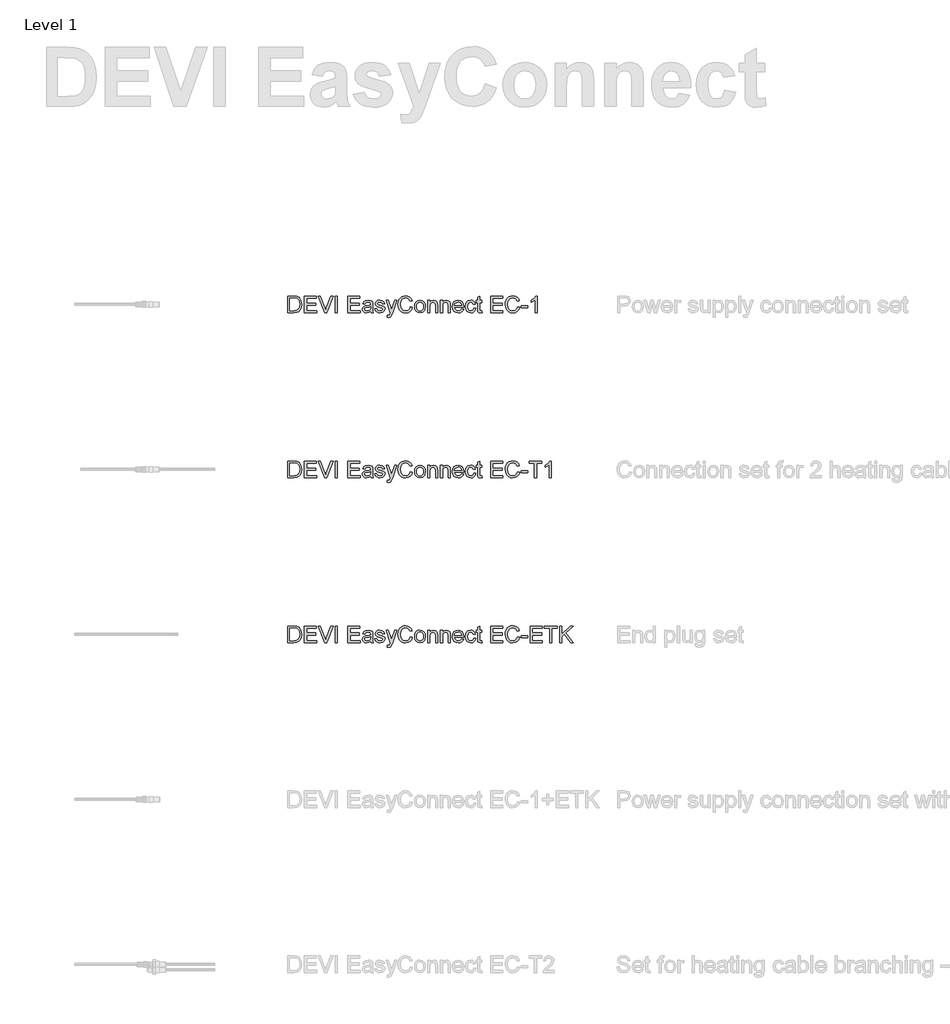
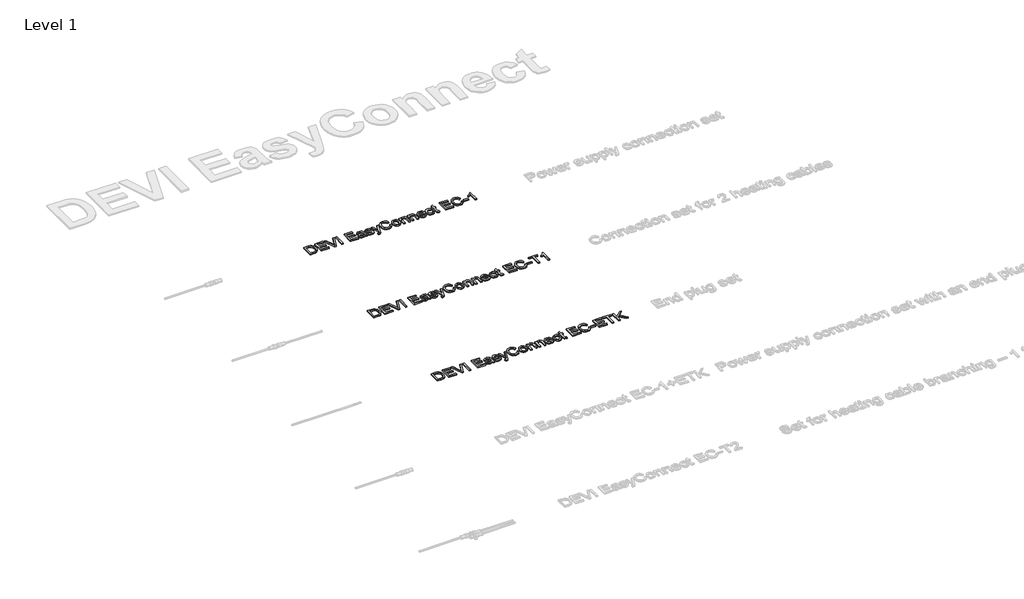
# One storey, part 8 of 11: 3 proxies.
"""IFC4 building model written with IfcOpenShell, lengths in millimetres."""

import ifcopenshell
import ifcopenshell.guid

model = None  # the IFC model being written
_history = None  # IfcOwnerHistory: only IFC2X3 demands one
_inside = {}  # id of a spatial element -> (the spatial element, [elements in it])
_under = {}  # id of a project, library or spatial element -> (it, [spatial elements below it])
_declared = {}  # id of a project -> (the project, [libraries it declares])
_typed = {}  # id of a type object -> (the type object, [elements of that type])
_made_of = {}  # id of a material, layer set ... -> (it, [elements and type objects made of it])


def new_model(schema):
    """Start an empty IFC model of exactly this schema.

    Asked for "IFC4X3", IfcOpenShell would pick the latest addendum, in which some entities
    have other attributes; the version numbers below select the first issue.
    IFC2X3 requires an IfcOwnerHistory on every rooted entity: one is made here for all.
    """
    global model, _history
    if schema == "IFC4X3":
        model = ifcopenshell.file(schema_version=(4, 3, 0, 0))
    else:
        model = ifcopenshell.file(schema=schema)
    _inside.clear()
    _under.clear()
    _declared.clear()
    _typed.clear()
    _made_of.clear()
    _history = None
    if model.schema == "IFC2X3":
        org = make("IfcOrganization", Name="unknown")
        user = make(
            "IfcPersonAndOrganization",
            ThePerson=make("IfcPerson", FamilyName="unknown"),
            TheOrganization=org,
        )
        app = make(
            "IfcApplication",
            ApplicationDeveloper=org,
            Version="unknown",
            ApplicationFullName="unknown",
            ApplicationIdentifier="unknown",
        )
        _history = make(
            "IfcOwnerHistory",
            OwningUser=user,
            OwningApplication=app,
            ChangeAction="ADDED",
            CreationDate=0,
        )
    return model


def make(cls, **values):
    """One entity of the class cls with the attributes given. An attribute that is None is left unset."""
    return model.create_entity(
        cls, **{name: value for name, value in values.items() if value is not None}
    )


def rooted(cls, **values):
    """An entity with a GlobalId (a new one), such as an element, a storey or a relation."""
    return make(cls, GlobalId=ifcopenshell.guid.new(), OwnerHistory=_history, **values)


def si_unit(unit_type, name, prefix=None):
    """IfcSIUnit, for example si_unit("LENGTHUNIT", "METRE", prefix="MILLI")."""
    return make("IfcSIUnit", UnitType=unit_type, Prefix=prefix, Name=name)


def assignment(units):
    """IfcUnitAssignment: the units of a project."""
    return None if units is None else make("IfcUnitAssignment", Units=units)


def point(xyz):
    """IfcCartesianPoint."""
    return None if xyz is None else make("IfcCartesianPoint", Coordinates=xyz)


def direction(xyz):
    """IfcDirection."""
    return None if xyz is None else make("IfcDirection", DirectionRatios=xyz)


def frame(location, z_axis=None, x_axis=None):
    """IfcAxis2Placement3D, a coordinate frame: its origin and axes. An axis left out is left unset."""
    return make(
        "IfcAxis2Placement3D",
        Location=point(location),
        Axis=direction(z_axis),
        RefDirection=direction(x_axis),
    )


def origin():
    """The frame at (0, 0, 0) with its axes left unset."""
    return frame((0.0, 0.0, 0.0))


def origin_with_axes():
    """The frame at (0, 0, 0) with the z axis (0, 0, 1) and the x axis (1, 0, 0) written out."""
    return frame((0.0, 0.0, 0.0), z_axis=(0.0, 0.0, 1.0), x_axis=(1.0, 0.0, 0.0))


def place(relative_to, where):
    """IfcLocalPlacement: puts the frame where relative to a parent placement (None: the world)."""
    return make(
        "IfcLocalPlacement", PlacementRelTo=relative_to, RelativePlacement=where
    )


def context(
    kind, dimensions, precision=None, world=None, true_north=None, identifier=None
):
    """IfcGeometricRepresentationContext, for example the 3D "Model" context."""
    return make(
        "IfcGeometricRepresentationContext",
        ContextIdentifier=identifier,
        ContextType=kind,
        CoordinateSpaceDimension=dimensions,
        Precision=precision,
        WorldCoordinateSystem=world,
        TrueNorth=true_north,
    )


def project(units=None, contexts=None):
    """IfcProject with its units and contexts."""
    return rooted(
        "IfcProject",
        Name="project",
        RepresentationContexts=contexts,
        UnitsInContext=assignment(units),
    )


def spatial(cls, under=None, at=None, **own):
    """A site, building, storey or space (cls), placed at a placement, below another one or the project."""
    s = rooted(cls, ObjectPlacement=at, **own)
    if under is not None:
        _under.setdefault(under.id(), (under, []))[1].append(s)
    return s


def polyline(points):
    """IfcPolyline through the points."""
    return make("IfcPolyline", Points=[point(p) for p in points])


def outline(outer, holes=None, kind="AREA"):
    """IfcArbitraryClosedProfileDef: a profile drawn as a closed curve; with holes, ...WithVoids."""
    if holes is None:
        return make("IfcArbitraryClosedProfileDef", ProfileType=kind, OuterCurve=outer)
    return make(
        "IfcArbitraryProfileDefWithVoids",
        ProfileType=kind,
        OuterCurve=outer,
        InnerCurves=holes,
    )


def extrude(swept, where, along, depth):
    """IfcExtrudedAreaSolid: the profile swept, set in the frame where, extruded along a direction by depth."""
    return make(
        "IfcExtrudedAreaSolid",
        SweptArea=swept,
        Position=where,
        ExtrudedDirection=direction(along),
        Depth=depth,
    )


def shape(context_of_items, identifier, shape_type, items):
    """IfcShapeRepresentation: the items that make up one representation, for example the "Body"."""
    return make(
        "IfcShapeRepresentation",
        ContextOfItems=context_of_items,
        RepresentationIdentifier=identifier,
        RepresentationType=shape_type,
        Items=items,
    )


def made_of(thing, what):
    """Note that an element or type object is made of a material, layer set ...; save() writes the relation."""
    if what is not None:
        _made_of.setdefault(what.id(), (what, []))[1].append(thing)
    return thing


def element(
    cls,
    number,
    at=None,
    inside=None,
    cuts=None,
    type_object=None,
    material=None,
    context=None,
    identifier="Body",
    shape_type=None,
    held_by="IfcProductDefinitionShape",
    body=None,
    shapes=None,
    **own,
):
    """One element of the class cls, such as IfcWall. Its Tag is "e" and its number.

    at: its placement. inside: the storey or other place that contains it. cuts: it is an
    opening in that element (IfcRelVoidsElement). A single representation is given by context,
    identifier, shape_type and body (its items); several are given by shapes. held_by: the class
    of the entity that holds the representations. save() writes the other relations.
    """
    e = rooted(cls, Tag="e%d" % number, ObjectPlacement=at, **own)
    if body is not None:
        shapes = [shape(context, identifier, shape_type, body)]
    if shapes is not None:
        e.Representation = make(held_by, Representations=shapes)
    if inside is not None:
        _inside.setdefault(inside.id(), (inside, []))[1].append(e)
    if cuts is not None:
        rooted(
            "IfcRelVoidsElement", RelatingBuildingElement=cuts, RelatedOpeningElement=e
        )
    if type_object is not None:
        _typed.setdefault(type_object.id(), (type_object, []))[1].append(e)
    return made_of(e, material)


def aggregate(whole, parts):
    """IfcRelAggregates: a whole, such as a stair, and the parts it consists of."""
    return rooted("IfcRelAggregates", RelatingObject=whole, RelatedObjects=parts)


def save(model, path):
    """Write the relations noted so far, then the file.

    IfcRelAggregates (storeys below a building ...), IfcRelContainedInSpatialStructure (elements
    in a storey), IfcRelDefinesByType, IfcRelAssociatesMaterial and IfcRelDeclares: one each for
    every whole, place, type object, material and project.
    """
    for whole, parts in _under.values():
        aggregate(whole, parts)
    for where, things in _inside.values():
        rooted(
            "IfcRelContainedInSpatialStructure",
            RelatedElements=things,
            RelatingStructure=where,
        )
    for kind, things in _typed.values():
        rooted("IfcRelDefinesByType", RelatedObjects=things, RelatingType=kind)
    for what, things in _made_of.values():
        rooted("IfcRelAssociatesMaterial", RelatedObjects=things, RelatingMaterial=what)
    for by, libraries in _declared.values():
        rooted("IfcRelDeclares", RelatingContext=by, RelatedDefinitions=libraries)
    model.write(path)


model = new_model("IFC4")

# Units and contexts
model_context = context("Model", 3, world=origin())
ifc_project = project(units=[si_unit("LENGTHUNIT", "METRE", prefix="MILLI")], contexts=[model_context])

# Site, building, storey
site = spatial("IfcSite", under=ifc_project)
building = spatial("IfcBuilding", under=site)
storey = spatial("IfcBuildingStorey", under=building, Name="Level 1", Elevation=0.0)

# Proxies
placement = place(None, origin())
element("IfcBuildingElementProxy", 1, Name="100mm Arial", ObjectType="100mm Arial", at=placement, inside=storey, context=model_context, shape_type="SweptSolid", body=[
    extrude(outline(polyline([(2544.9544754, 6516.7341496), (2544.9544754, 6617.1904598), (2579.6089593, 6617.1904598), (2597.5370752, 6615.7434572), (2612.3014059, 6608.5574956), (2624.1962571, 6591.3896692), (2628.1448572, 6567.5018649), (2625.4715814, 6547.231567), (2618.6044508, 6532.6021263), (2609.4319264, 6523.4909156), (2597.4267106, 6518.4509323), (2581.276691, 6516.7341496), (2544.9544754, 6516.7341496)]), holes=[polyline([(2557.5115141, 6529.2911884), (2579.7315866, 6529.2911884), (2595.893869, 6531.1060729), (2605.2135462, 6536.2318954), (2612.8532289, 6548.703095), (2615.5878184, 6567.6980687), (2614.2481148, 6581.3832789), (2610.229004, 6591.487771), (2597.1937187, 6602.6223328), (2579.3882301, 6604.633421), (2557.5115141, 6604.633421), (2557.5115141, 6529.2911884)])]), origin_with_axes(), (0.0, 0.0, 1.0), 10.0),
    extrude(outline(polyline([(2645.4107855, 6516.7341496), (2645.4107855, 6617.1904598), (2717.6137584, 6617.1904598), (2717.6137584, 6604.633421), (2657.9678243, 6604.633421), (2657.9678243, 6574.8104539), (2714.4744987, 6574.8104539), (2714.4744987, 6562.2534151), (2657.9678243, 6562.2534151), (2657.9678243, 6529.2911884), (2719.1833883, 6529.2911884), (2719.1833883, 6516.7341496), (2645.4107855, 6516.7341496)])), origin_with_axes(), (0.0, 0.0, 1.0), 10.0),
    extrude(outline(polyline([(2767.6947607, 6516.7341496), (2727.7182506, 6617.1904598), (2741.1582061, 6617.1904598), (2767.9154899, 6544.8158086), (2773.335618, 6528.5063735), (2778.6821696, 6544.8158086), (2805.5130298, 6617.1904598), (2818.9529854, 6617.1904598), (2780.6687324, 6516.7341496), (2767.6947607, 6516.7341496)])), origin_with_axes(), (0.0, 0.0, 1.0), 10.0),
    extrude(outline(polyline([(2832.1967372, 6516.7341496), (2832.1967372, 6617.1904598), (2844.753776, 6617.1904598), (2844.753776, 6516.7341496), (2832.1967372, 6516.7341496)])), origin_with_axes(), (0.0, 0.0, 1.0), 10.0),
    extrude(outline(polyline([(2909.1085996, 6516.7341496), (2909.1085996, 6617.1904598), (2981.3115726, 6617.1904598), (2981.3115726, 6604.633421), (2921.6656384, 6604.633421), (2921.6656384, 6574.8104539), (2978.1723129, 6574.8104539), (2978.1723129, 6562.2534151), (2921.6656384, 6562.2534151), (2921.6656384, 6529.2911884), (2982.8812024, 6529.2911884), (2982.8812024, 6516.7341496), (2909.1085996, 6516.7341496)])), origin_with_axes(), (0.0, 0.0, 1.0), 10.0),
    extrude(outline(polyline([(3047.2360261, 6526.1519287), (3035.0591321, 6517.6415919), (3021.6069138, 6515.1645198), (3011.1130799, 6516.6544418), (3003.3722295, 6521.1242081), (2998.5989607, 6527.9116309), (2997.007871, 6536.3545227), (2999.4113667, 6546.2873366), (3005.7266743, 6553.4978237), (3014.519054, 6557.618102), (3025.3838356, 6559.5065629), (3047.1624497, 6563.823045), (3047.2360261, 6566.6189482), (3043.7779353, 6575.8895744), (3029.8965214, 6579.5193435), (3017.1923298, 6577.103585), (3011.1345396, 6568.5319345), (2998.5775009, 6570.1015644), (3004.0098917, 6582.3642975), (3014.9482497, 6589.5502592), (3031.5152022, 6592.0763822), (3046.733254, 6589.8445648), (3055.32943, 6584.2404957), (3059.1799282, 6575.7178962), (3059.7930649, 6564.7304872), (3059.7930649, 6549.1077652), (3060.430727, 6527.2923629), (3062.9323246, 6516.7341496), (3050.3752858, 6516.7341496), (3047.2360261, 6526.1519287)]), holes=[polyline([(3047.2360261, 6551.2660062), (3026.9779909, 6547.415508), (3016.174523, 6545.3798943), (3011.2816924, 6542.0689563), (3009.5649098, 6537.2374395), (3013.3050434, 6530.4438853), (3024.2801896, 6527.7215585), (3036.9843812, 6530.7259282), (3045.1758869, 6537.9977289), (3047.1624497, 6547.7098136), (3047.2360261, 6551.2660062)])]), origin_with_axes(), (0.0, 0.0, 1.0), 10.0),
    extrude(outline(polyline([(3072.3501036, 6538.7089675), (3084.9071424, 6540.2785973), (3090.7196779, 6530.9589201), (3104.0370062, 6527.7215585), (3116.8392996, 6530.68914), (3121.0086289, 6537.6543724), (3116.8147741, 6543.2952297), (3103.8898534, 6546.8759477), (3084.9807188, 6553.0195771), (3076.7278994, 6560.193276), (3073.9197335, 6570.3222936), (3076.1760764, 6579.678759), (3082.3319684, 6586.8279324), (3090.3150077, 6590.5435406), (3101.1184757, 6592.0763822), (3116.3978412, 6589.6115729), (3126.1099259, 6582.940646), (3130.4264079, 6571.6711942), (3117.8693692, 6570.1015644), (3113.1482169, 6577.0300086), (3102.0994943, 6579.5193435), (3090.0820158, 6577.1403732), (3086.4767723, 6571.5976178), (3087.9728257, 6567.9433233), (3092.6571898, 6565.1719456), (3103.4729204, 6562.4986698), (3121.9038084, 6556.5880324), (3130.4631961, 6549.8925801), (3133.5656676, 6538.9787476), (3129.9236359, 6526.9612691), (3119.4144736, 6518.2424658), (3103.8653279, 6515.1645198), (3091.2040559, 6516.6483105), (3081.9640864, 6521.0996826), (3075.7959317, 6528.4695853), (3072.3501036, 6538.7089675)])), origin_with_axes(), (0.0, 0.0, 1.0), 10.0),
    extrude(outline(polyline([(3147.6923363, 6488.4808124), (3146.1227064, 6500.5718673), (3152.4993277, 6499.4682213), (3158.459016, 6500.8539102), (3162.1133105, 6504.7166711), (3165.5468758, 6513.9627719), (3166.5278944, 6517.0039297), (3139.844187, 6590.5067524), (3153.0879388, 6590.5067524), (3167.2391329, 6549.5492236), (3172.1687517, 6533.1662121), (3177.0983704, 6547.6362372), (3191.6419719, 6590.5067524), (3204.7876219, 6590.5067524), (3179.1094586, 6514.968316), (3172.4385318, 6498.5853045), (3165.1544683, 6489.7316112), (3155.3688072, 6486.9111825), (3147.6923363, 6488.4808124)])), origin_with_axes(), (0.0, 0.0, 1.0), 10.0),
    extrude(outline(polyline([(3287.3893926, 6552.4432286), (3299.9464313, 6549.2058671), (3294.1522899, 6534.5733607), (3285.0594733, 6523.883323), (3273.1155711, 6517.3442206), (3258.7681733, 6515.1645198), (3244.203112, 6516.8138574), (3232.6362889, 6521.7618702), (3223.7703329, 6529.83688), (3217.3078725, 6540.8672085), (3212.0471599, 6567.7225941), (3213.5340163, 6582.3704289), (3217.9945855, 6595.0194382), (3225.1958756, 6605.2680174), (3234.9048946, 6612.7145622), (3246.419601, 6617.2487077), (3259.0379535, 6618.7600896), (3272.8059371, 6616.8041837), (3284.1888192, 6610.9364658), (3292.8309804, 6601.5186868), (3298.3768015, 6588.9125971), (3285.8197627, 6585.9204902), (3275.5190668, 6601.3592712), (3258.5474441, 6606.2030508), (3238.9025456, 6600.8319737), (3227.8047721, 6586.4109995), (3224.6041987, 6567.7471196), (3228.3933833, 6546.1156583), (3240.1901326, 6532.295558), (3257.5173745, 6527.7215585), (3267.9989457, 6529.2789256), (3276.7330774, 6533.951027), (3283.3273622, 6541.6888116), (3287.3893926, 6552.4432286)])), origin_with_axes(), (0.0, 0.0, 1.0), 10.0),
    extrude(outline(polyline([(3312.5034701, 6553.620451), (3315.2196655, 6571.4075455), (3323.3682517, 6583.9094019), (3333.4359556, 6590.0346371), (3345.4902223, 6592.0763822), (3358.6818575, 6589.5901131), (3369.218611, 6582.1313056), (3376.1255955, 6570.2885711), (3378.4279236, 6554.6505206), (3374.3566962, 6532.3078207), (3362.4986332, 6519.6649428), (3345.4902223, 6515.1645198), (3332.1391716, 6517.6415919), (3321.6146808, 6525.0728082), (3314.7812728, 6537.1638631), (3312.5034701, 6553.620451)]), holes=[polyline([(3325.0605089, 6553.6449765), (3326.5136427, 6542.2804885), (3330.8730444, 6534.1840189), (3337.4336066, 6529.3371736), (3345.4902223, 6527.7215585), (3353.5100498, 6529.3463707), (3360.0583493, 6534.2208071), (3364.417751, 6542.4245756), (3365.8708849, 6554.0373839), (3364.4085539, 6565.0707781), (3360.0215611, 6573.0568831), (3353.4640646, 6577.9037284), (3345.4902223, 6579.5193435), (3337.4336066, 6577.9098597), (3330.8730444, 6573.0814085), (3326.5136427, 6565.0033331), (3325.0605089, 6553.6449765)])]), origin_with_axes(), (0.0, 0.0, 1.0), 10.0),
    extrude(outline(polyline([(3392.5545922, 6516.7341496), (3392.5545922, 6590.5067524), (3405.111631, 6590.5067524), (3405.111631, 6580.2060565), (3414.7133511, 6589.1088008), (3427.8222128, 6592.0763822), (3439.6802758, 6589.6851493), (3447.7736797, 6583.4066299), (3451.5383388, 6574.1727918), (3452.2005264, 6562.0326859), (3452.2005264, 6516.7341496), (3439.6434876, 6516.7341496), (3439.6434876, 6560.3404288), (3438.1964851, 6571.450465), (3433.0829254, 6577.3243142), (3424.462224, 6579.5193435), (3410.8383274, 6574.5897247), (3406.5433051, 6567.4466826), (3405.111631, 6555.8767939), (3405.111631, 6516.7341496), (3392.5545922, 6516.7341496)])), origin_with_axes(), (0.0, 0.0, 1.0), 10.0),
    extrude(outline(polyline([(3469.4664547, 6516.7341496), (3469.4664547, 6590.5067524), (3482.0234935, 6590.5067524), (3482.0234935, 6580.2060565), (3491.6252135, 6589.1088008), (3504.7340753, 6592.0763822), (3516.5921383, 6589.6851493), (3524.6855422, 6583.4066299), (3528.4502013, 6574.1727918), (3529.1123889, 6562.0326859), (3529.1123889, 6516.7341496), (3516.5553501, 6516.7341496), (3516.5553501, 6560.3404288), (3515.1083476, 6571.450465), (3509.9947878, 6577.3243142), (3501.3740864, 6579.5193435), (3487.7501899, 6574.5897247), (3483.4551676, 6567.4466826), (3482.0234935, 6555.8767939), (3482.0234935, 6516.7341496), (3469.4664547, 6516.7341496)])), origin_with_axes(), (0.0, 0.0, 1.0), 10.0),
    extrude(outline(polyline([(3598.0289493, 6538.7089675), (3610.3407334, 6537.1393376), (3605.9046897, 6527.86258), (3598.8260269, 6520.9280044), (3589.2641607, 6516.6053909), (3577.3785066, 6515.1645198), (3562.6448327, 6517.6507889), (3551.3079359, 6525.1095964), (3544.0790547, 6537.0565642), (3541.6694276, 6553.0073143), (3544.1035802, 6569.4945591), (3551.4060378, 6581.8247373), (3562.5896504, 6589.513471), (3576.6672681, 6592.0763822), (3590.3064931, 6589.5196024), (3601.2049972, 6581.8492628), (3608.3511049, 6569.54361), (3610.7331408, 6553.0808907), (3610.6595645, 6549.6963764), (3554.2264664, 6549.6963764), (3556.4000358, 6540.2969914), (3561.4492162, 6533.3869413), (3568.7363454, 6529.1379042), (3577.6237613, 6527.7215585), (3589.9355454, 6530.3457834), (3598.0289493, 6538.7089675)]), holes=[polyline([(3554.2264664, 6562.2534151), (3598.1761021, 6562.2534151), (3593.1483815, 6573.6332315), (3585.8275298, 6578.0478155), (3576.6182172, 6579.5193435), (3561.1549106, 6574.8227166), (3556.2896712, 6569.3320779), (3554.2264664, 6562.2534151)])]), origin_with_axes(), (0.0, 0.0, 1.0), 10.0),
    extrude(outline(polyline([(3670.379075, 6543.417857), (3682.9361138, 6541.8482271), (3679.4351034, 6530.6799429), (3672.8561471, 6522.2401168), (3663.8185128, 6516.933419), (3652.9414684, 6515.1645198), (3639.5842863, 6517.6323948), (3629.1395033, 6525.03602), (3622.3980658, 6537.0504328), (3620.1509199, 6553.3506709), (3623.9891554, 6574.20958), (3635.6878029, 6587.6127473), (3652.7697902, 6592.0763822), (3663.38012, 6590.5435406), (3671.8628657, 6585.9450156), (3677.9482471, 6578.5260621), (3681.3664839, 6568.5319345), (3668.8094452, 6566.9623047), (3662.9846469, 6576.367821), (3652.867892, 6579.5193435), (3644.7530284, 6577.9681077), (3638.3120278, 6573.3144005), (3634.108976, 6565.3068357), (3632.7079587, 6553.6940274), (3634.0783191, 6541.9248692), (3638.1894004, 6533.8897133), (3644.5139051, 6529.2635972), (3652.5245355, 6527.7215585), (3664.358073, 6531.5720567), (3670.379075, 6543.417857)])), origin_with_axes(), (0.0, 0.0, 1.0), 10.0),
    extrude(outline(polyline([(3720.6072301, 6527.2065237), (3722.1768599, 6516.3662676), (3712.7836063, 6515.1645198), (3702.2621812, 6517.2491844), (3697.0137315, 6522.7183634), (3695.4931525, 6536.9676593), (3695.4931525, 6577.9497136), (3686.0753735, 6577.9497136), (3686.0753735, 6590.5067524), (3695.4931525, 6590.5067524), (3695.4931525, 6608.4348683), (3708.0501913, 6615.8170336), (3708.0501913, 6590.5067524), (3720.6072301, 6590.5067524), (3720.6072301, 6577.9497136), (3708.0501913, 6577.9497136), (3708.0501913, 6537.3355413), (3708.7123789, 6530.8608182), (3710.8583572, 6528.5676871), (3715.1380511, 6527.7215585), (3720.6072301, 6527.2065237)])), origin_with_axes(), (0.0, 0.0, 1.0), 10.0),
    extrude(outline(polyline([(3773.9746448, 6516.7341496), (3773.9746448, 6617.1904598), (3846.1776178, 6617.1904598), (3846.1776178, 6604.633421), (3786.5316836, 6604.633421), (3786.5316836, 6574.8104539), (3843.0383581, 6574.8104539), (3843.0383581, 6562.2534151), (3786.5316836, 6562.2534151), (3786.5316836, 6529.2911884), (3847.7472476, 6529.2911884), (3847.7472476, 6516.7341496), (3773.9746448, 6516.7341496)])), origin_with_axes(), (0.0, 0.0, 1.0), 10.0),
    extrude(outline(polyline([(3937.2161488, 6552.4432286), (3949.7731876, 6549.2058671), (3943.9790462, 6534.5733607), (3934.8862295, 6523.883323), (3922.9423274, 6517.3442206), (3908.5949296, 6515.1645198), (3894.0298683, 6516.8138574), (3882.4630452, 6521.7618702), (3873.5970891, 6529.83688), (3867.1346288, 6540.8672085), (3861.8739162, 6567.7225941), (3863.3607726, 6582.3704289), (3867.8213418, 6595.0194382), (3875.0226319, 6605.2680174), (3884.7316509, 6612.7145622), (3896.2463573, 6617.2487077), (3908.8647097, 6618.7600896), (3922.6326934, 6616.8041837), (3934.0155755, 6610.9364658), (3942.6577367, 6601.5186868), (3948.2035578, 6588.9125971), (3935.646519, 6585.9204902), (3925.3458231, 6601.3592712), (3908.3742004, 6606.2030508), (3888.7293019, 6600.8319737), (3877.6315284, 6586.4109995), (3874.430955, 6567.7471196), (3878.2201395, 6546.1156583), (3890.0168889, 6532.295558), (3907.3441308, 6527.7215585), (3917.825702, 6529.2789256), (3926.5598337, 6533.951027), (3933.1541185, 6541.6888116), (3937.2161488, 6552.4432286)])), origin_with_axes(), (0.0, 0.0, 1.0), 10.0),
    extrude(outline(polyline([(3959.1909667, 6546.5571167), (3959.1909667, 6559.1141555), (3998.4317128, 6559.1141555), (3998.4317128, 6546.5571167), (3959.1909667, 6546.5571167)])), origin_with_axes(), (0.0, 0.0, 1.0), 10.0),
    extrude(outline(polyline([(4056.5080171, 6516.7341496), (4043.9509784, 6516.7341496), (4043.9509784, 6595.0194382), (4032.0561272, 6586.5458896), (4018.8369008, 6580.2060565), (4018.8369008, 6592.0763822), (4037.2432633, 6603.8240806), (4048.4146132, 6617.1904598), (4056.5080171, 6617.1904598), (4056.5080171, 6516.7341496)])), origin_with_axes(), (0.0, 0.0, 1.0), 10.0),
])
element("IfcBuildingElementProxy", 2, Name="100mm Arial", ObjectType="100mm Arial", at=placement, inside=storey, context=model_context, shape_type="SweptSolid", body=[
    extrude(outline(polyline([(2544.9544754, 5516.7341496), (2544.9544754, 5617.1904598), (2579.6089593, 5617.1904598), (2597.5370752, 5615.7434572), (2612.3014059, 5608.5574956), (2624.1962571, 5591.3896692), (2628.1448572, 5567.5018649), (2625.4715814, 5547.231567), (2618.6044508, 5532.6021263), (2609.4319264, 5523.4909156), (2597.4267106, 5518.4509323), (2581.276691, 5516.7341496), (2544.9544754, 5516.7341496)]), holes=[polyline([(2557.5115141, 5529.2911884), (2579.7315866, 5529.2911884), (2595.893869, 5531.1060729), (2605.2135462, 5536.2318954), (2612.8532289, 5548.703095), (2615.5878184, 5567.6980687), (2614.2481148, 5581.3832789), (2610.229004, 5591.487771), (2597.1937187, 5602.6223328), (2579.3882301, 5604.633421), (2557.5115141, 5604.633421), (2557.5115141, 5529.2911884)])]), origin_with_axes(), (0.0, 0.0, 1.0), 10.0),
    extrude(outline(polyline([(2645.4107855, 5516.7341496), (2645.4107855, 5617.1904598), (2717.6137584, 5617.1904598), (2717.6137584, 5604.633421), (2657.9678243, 5604.633421), (2657.9678243, 5574.8104539), (2714.4744987, 5574.8104539), (2714.4744987, 5562.2534151), (2657.9678243, 5562.2534151), (2657.9678243, 5529.2911884), (2719.1833883, 5529.2911884), (2719.1833883, 5516.7341496), (2645.4107855, 5516.7341496)])), origin_with_axes(), (0.0, 0.0, 1.0), 10.0),
    extrude(outline(polyline([(2767.6947607, 5516.7341496), (2727.7182506, 5617.1904598), (2741.1582061, 5617.1904598), (2767.9154899, 5544.8158086), (2773.335618, 5528.5063735), (2778.6821696, 5544.8158086), (2805.5130298, 5617.1904598), (2818.9529854, 5617.1904598), (2780.6687324, 5516.7341496), (2767.6947607, 5516.7341496)])), origin_with_axes(), (0.0, 0.0, 1.0), 10.0),
    extrude(outline(polyline([(2832.1967372, 5516.7341496), (2832.1967372, 5617.1904598), (2844.753776, 5617.1904598), (2844.753776, 5516.7341496), (2832.1967372, 5516.7341496)])), origin_with_axes(), (0.0, 0.0, 1.0), 10.0),
    extrude(outline(polyline([(2909.1085996, 5516.7341496), (2909.1085996, 5617.1904598), (2981.3115726, 5617.1904598), (2981.3115726, 5604.633421), (2921.6656384, 5604.633421), (2921.6656384, 5574.8104539), (2978.1723129, 5574.8104539), (2978.1723129, 5562.2534151), (2921.6656384, 5562.2534151), (2921.6656384, 5529.2911884), (2982.8812024, 5529.2911884), (2982.8812024, 5516.7341496), (2909.1085996, 5516.7341496)])), origin_with_axes(), (0.0, 0.0, 1.0), 10.0),
    extrude(outline(polyline([(3047.2360261, 5526.1519287), (3035.0591321, 5517.6415919), (3021.6069138, 5515.1645198), (3011.1130799, 5516.6544418), (3003.3722295, 5521.1242081), (2998.5989607, 5527.9116309), (2997.007871, 5536.3545227), (2999.4113667, 5546.2873366), (3005.7266743, 5553.4978237), (3014.519054, 5557.618102), (3025.3838356, 5559.5065629), (3047.1624497, 5563.823045), (3047.2360261, 5566.6189482), (3043.7779353, 5575.8895744), (3029.8965214, 5579.5193435), (3017.1923298, 5577.103585), (3011.1345396, 5568.5319345), (2998.5775009, 5570.1015644), (3004.0098917, 5582.3642975), (3014.9482497, 5589.5502592), (3031.5152022, 5592.0763822), (3046.733254, 5589.8445648), (3055.32943, 5584.2404957), (3059.1799282, 5575.7178962), (3059.7930649, 5564.7304872), (3059.7930649, 5549.1077652), (3060.430727, 5527.2923629), (3062.9323246, 5516.7341496), (3050.3752858, 5516.7341496), (3047.2360261, 5526.1519287)]), holes=[polyline([(3047.2360261, 5551.2660062), (3026.9779909, 5547.415508), (3016.174523, 5545.3798943), (3011.2816924, 5542.0689563), (3009.5649098, 5537.2374395), (3013.3050434, 5530.4438853), (3024.2801896, 5527.7215585), (3036.9843812, 5530.7259282), (3045.1758869, 5537.9977289), (3047.1624497, 5547.7098136), (3047.2360261, 5551.2660062)])]), origin_with_axes(), (0.0, 0.0, 1.0), 10.0),
    extrude(outline(polyline([(3072.3501036, 5538.7089675), (3084.9071424, 5540.2785973), (3090.7196779, 5530.9589201), (3104.0370062, 5527.7215585), (3116.8392996, 5530.68914), (3121.0086289, 5537.6543724), (3116.8147741, 5543.2952297), (3103.8898534, 5546.8759477), (3084.9807188, 5553.0195771), (3076.7278994, 5560.193276), (3073.9197335, 5570.3222936), (3076.1760764, 5579.678759), (3082.3319684, 5586.8279324), (3090.3150077, 5590.5435406), (3101.1184757, 5592.0763822), (3116.3978412, 5589.6115729), (3126.1099259, 5582.940646), (3130.4264079, 5571.6711942), (3117.8693692, 5570.1015644), (3113.1482169, 5577.0300086), (3102.0994943, 5579.5193435), (3090.0820158, 5577.1403732), (3086.4767723, 5571.5976178), (3087.9728257, 5567.9433233), (3092.6571898, 5565.1719456), (3103.4729204, 5562.4986698), (3121.9038084, 5556.5880324), (3130.4631961, 5549.8925801), (3133.5656676, 5538.9787476), (3129.9236359, 5526.9612691), (3119.4144736, 5518.2424658), (3103.8653279, 5515.1645198), (3091.2040559, 5516.6483105), (3081.9640864, 5521.0996826), (3075.7959317, 5528.4695853), (3072.3501036, 5538.7089675)])), origin_with_axes(), (0.0, 0.0, 1.0), 10.0),
    extrude(outline(polyline([(3147.6923363, 5488.4808124), (3146.1227064, 5500.5718673), (3152.4993277, 5499.4682213), (3158.459016, 5500.8539102), (3162.1133105, 5504.7166711), (3165.5468758, 5513.9627719), (3166.5278944, 5517.0039297), (3139.844187, 5590.5067524), (3153.0879388, 5590.5067524), (3167.2391329, 5549.5492236), (3172.1687517, 5533.1662121), (3177.0983704, 5547.6362372), (3191.6419719, 5590.5067524), (3204.7876219, 5590.5067524), (3179.1094586, 5514.968316), (3172.4385318, 5498.5853045), (3165.1544683, 5489.7316112), (3155.3688072, 5486.9111825), (3147.6923363, 5488.4808124)])), origin_with_axes(), (0.0, 0.0, 1.0), 10.0),
    extrude(outline(polyline([(3287.3893926, 5552.4432286), (3299.9464313, 5549.2058671), (3294.1522899, 5534.5733607), (3285.0594733, 5523.883323), (3273.1155711, 5517.3442206), (3258.7681733, 5515.1645198), (3244.203112, 5516.8138574), (3232.6362889, 5521.7618702), (3223.7703329, 5529.83688), (3217.3078725, 5540.8672085), (3212.0471599, 5567.7225941), (3213.5340163, 5582.3704289), (3217.9945855, 5595.0194382), (3225.1958756, 5605.2680174), (3234.9048946, 5612.7145622), (3246.419601, 5617.2487077), (3259.0379535, 5618.7600896), (3272.8059371, 5616.8041837), (3284.1888192, 5610.9364658), (3292.8309804, 5601.5186868), (3298.3768015, 5588.9125971), (3285.8197627, 5585.9204902), (3275.5190668, 5601.3592712), (3258.5474441, 5606.2030508), (3238.9025456, 5600.8319737), (3227.8047721, 5586.4109995), (3224.6041987, 5567.7471196), (3228.3933833, 5546.1156583), (3240.1901326, 5532.295558), (3257.5173745, 5527.7215585), (3267.9989457, 5529.2789256), (3276.7330774, 5533.951027), (3283.3273622, 5541.6888116), (3287.3893926, 5552.4432286)])), origin_with_axes(), (0.0, 0.0, 1.0), 10.0),
    extrude(outline(polyline([(3312.5034701, 5553.620451), (3315.2196655, 5571.4075455), (3323.3682517, 5583.9094019), (3333.4359556, 5590.0346371), (3345.4902223, 5592.0763822), (3358.6818575, 5589.5901131), (3369.218611, 5582.1313056), (3376.1255955, 5570.2885711), (3378.4279236, 5554.6505206), (3374.3566962, 5532.3078207), (3362.4986332, 5519.6649428), (3345.4902223, 5515.1645198), (3332.1391716, 5517.6415919), (3321.6146808, 5525.0728082), (3314.7812728, 5537.1638631), (3312.5034701, 5553.620451)]), holes=[polyline([(3325.0605089, 5553.6449765), (3326.5136427, 5542.2804885), (3330.8730444, 5534.1840189), (3337.4336066, 5529.3371736), (3345.4902223, 5527.7215585), (3353.5100498, 5529.3463707), (3360.0583493, 5534.2208071), (3364.417751, 5542.4245756), (3365.8708849, 5554.0373839), (3364.4085539, 5565.0707781), (3360.0215611, 5573.0568831), (3353.4640646, 5577.9037284), (3345.4902223, 5579.5193435), (3337.4336066, 5577.9098597), (3330.8730444, 5573.0814085), (3326.5136427, 5565.0033331), (3325.0605089, 5553.6449765)])]), origin_with_axes(), (0.0, 0.0, 1.0), 10.0),
    extrude(outline(polyline([(3392.5545922, 5516.7341496), (3392.5545922, 5590.5067524), (3405.111631, 5590.5067524), (3405.111631, 5580.2060565), (3414.7133511, 5589.1088008), (3427.8222128, 5592.0763822), (3439.6802758, 5589.6851493), (3447.7736797, 5583.4066299), (3451.5383388, 5574.1727918), (3452.2005264, 5562.0326859), (3452.2005264, 5516.7341496), (3439.6434876, 5516.7341496), (3439.6434876, 5560.3404288), (3438.1964851, 5571.450465), (3433.0829254, 5577.3243142), (3424.462224, 5579.5193435), (3410.8383274, 5574.5897247), (3406.5433051, 5567.4466826), (3405.111631, 5555.8767939), (3405.111631, 5516.7341496), (3392.5545922, 5516.7341496)])), origin_with_axes(), (0.0, 0.0, 1.0), 10.0),
    extrude(outline(polyline([(3469.4664547, 5516.7341496), (3469.4664547, 5590.5067524), (3482.0234935, 5590.5067524), (3482.0234935, 5580.2060565), (3491.6252135, 5589.1088008), (3504.7340753, 5592.0763822), (3516.5921383, 5589.6851493), (3524.6855422, 5583.4066299), (3528.4502013, 5574.1727918), (3529.1123889, 5562.0326859), (3529.1123889, 5516.7341496), (3516.5553501, 5516.7341496), (3516.5553501, 5560.3404288), (3515.1083476, 5571.450465), (3509.9947878, 5577.3243142), (3501.3740864, 5579.5193435), (3487.7501899, 5574.5897247), (3483.4551676, 5567.4466826), (3482.0234935, 5555.8767939), (3482.0234935, 5516.7341496), (3469.4664547, 5516.7341496)])), origin_with_axes(), (0.0, 0.0, 1.0), 10.0),
    extrude(outline(polyline([(3598.0289493, 5538.7089675), (3610.3407334, 5537.1393376), (3605.9046897, 5527.86258), (3598.8260269, 5520.9280044), (3589.2641607, 5516.6053909), (3577.3785066, 5515.1645198), (3562.6448327, 5517.6507889), (3551.3079359, 5525.1095964), (3544.0790547, 5537.0565642), (3541.6694276, 5553.0073143), (3544.1035802, 5569.4945591), (3551.4060378, 5581.8247373), (3562.5896504, 5589.513471), (3576.6672681, 5592.0763822), (3590.3064931, 5589.5196024), (3601.2049972, 5581.8492628), (3608.3511049, 5569.54361), (3610.7331408, 5553.0808907), (3610.6595645, 5549.6963764), (3554.2264664, 5549.6963764), (3556.4000358, 5540.2969914), (3561.4492162, 5533.3869413), (3568.7363454, 5529.1379042), (3577.6237613, 5527.7215585), (3589.9355454, 5530.3457834), (3598.0289493, 5538.7089675)]), holes=[polyline([(3554.2264664, 5562.2534151), (3598.1761021, 5562.2534151), (3593.1483815, 5573.6332315), (3585.8275298, 5578.0478155), (3576.6182172, 5579.5193435), (3561.1549106, 5574.8227166), (3556.2896712, 5569.3320779), (3554.2264664, 5562.2534151)])]), origin_with_axes(), (0.0, 0.0, 1.0), 10.0),
    extrude(outline(polyline([(3670.379075, 5543.417857), (3682.9361138, 5541.8482271), (3679.4351034, 5530.6799429), (3672.8561471, 5522.2401168), (3663.8185128, 5516.933419), (3652.9414684, 5515.1645198), (3639.5842863, 5517.6323948), (3629.1395033, 5525.03602), (3622.3980658, 5537.0504328), (3620.1509199, 5553.3506709), (3623.9891554, 5574.20958), (3635.6878029, 5587.6127473), (3652.7697902, 5592.0763822), (3663.38012, 5590.5435406), (3671.8628657, 5585.9450156), (3677.9482471, 5578.5260621), (3681.3664839, 5568.5319345), (3668.8094452, 5566.9623047), (3662.9846469, 5576.367821), (3652.867892, 5579.5193435), (3644.7530284, 5577.9681077), (3638.3120278, 5573.3144005), (3634.108976, 5565.3068357), (3632.7079587, 5553.6940274), (3634.0783191, 5541.9248692), (3638.1894004, 5533.8897133), (3644.5139051, 5529.2635972), (3652.5245355, 5527.7215585), (3664.358073, 5531.5720567), (3670.379075, 5543.417857)])), origin_with_axes(), (0.0, 0.0, 1.0), 10.0),
    extrude(outline(polyline([(3720.6072301, 5527.2065237), (3722.1768599, 5516.3662676), (3712.7836063, 5515.1645198), (3702.2621812, 5517.2491844), (3697.0137315, 5522.7183634), (3695.4931525, 5536.9676593), (3695.4931525, 5577.9497136), (3686.0753735, 5577.9497136), (3686.0753735, 5590.5067524), (3695.4931525, 5590.5067524), (3695.4931525, 5608.4348683), (3708.0501913, 5615.8170336), (3708.0501913, 5590.5067524), (3720.6072301, 5590.5067524), (3720.6072301, 5577.9497136), (3708.0501913, 5577.9497136), (3708.0501913, 5537.3355413), (3708.7123789, 5530.8608182), (3710.8583572, 5528.5676871), (3715.1380511, 5527.7215585), (3720.6072301, 5527.2065237)])), origin_with_axes(), (0.0, 0.0, 1.0), 10.0),
    extrude(outline(polyline([(3773.9746448, 5516.7341496), (3773.9746448, 5617.1904598), (3846.1776178, 5617.1904598), (3846.1776178, 5604.633421), (3786.5316836, 5604.633421), (3786.5316836, 5574.8104539), (3843.0383581, 5574.8104539), (3843.0383581, 5562.2534151), (3786.5316836, 5562.2534151), (3786.5316836, 5529.2911884), (3847.7472476, 5529.2911884), (3847.7472476, 5516.7341496), (3773.9746448, 5516.7341496)])), origin_with_axes(), (0.0, 0.0, 1.0), 10.0),
    extrude(outline(polyline([(3937.2161488, 5552.4432286), (3949.7731876, 5549.2058671), (3943.9790462, 5534.5733607), (3934.8862295, 5523.883323), (3922.9423274, 5517.3442206), (3908.5949296, 5515.1645198), (3894.0298683, 5516.8138574), (3882.4630452, 5521.7618702), (3873.5970891, 5529.83688), (3867.1346288, 5540.8672085), (3861.8739162, 5567.7225941), (3863.3607726, 5582.3704289), (3867.8213418, 5595.0194382), (3875.0226319, 5605.2680174), (3884.7316509, 5612.7145622), (3896.2463573, 5617.2487077), (3908.8647097, 5618.7600896), (3922.6326934, 5616.8041837), (3934.0155755, 5610.9364658), (3942.6577367, 5601.5186868), (3948.2035578, 5588.9125971), (3935.646519, 5585.9204902), (3925.3458231, 5601.3592712), (3908.3742004, 5606.2030508), (3888.7293019, 5600.8319737), (3877.6315284, 5586.4109995), (3874.430955, 5567.7471196), (3878.2201395, 5546.1156583), (3890.0168889, 5532.295558), (3907.3441308, 5527.7215585), (3917.825702, 5529.2789256), (3926.5598337, 5533.951027), (3933.1541185, 5541.6888116), (3937.2161488, 5552.4432286)])), origin_with_axes(), (0.0, 0.0, 1.0), 10.0),
    extrude(outline(polyline([(3959.1909667, 5546.5571167), (3959.1909667, 5559.1141555), (3998.4317128, 5559.1141555), (3998.4317128, 5546.5571167), (3959.1909667, 5546.5571167)])), origin_with_axes(), (0.0, 0.0, 1.0), 10.0),
    extrude(outline(polyline([(4039.2420888, 5516.7341496), (4039.2420888, 5604.633421), (4006.2798621, 5604.633421), (4006.2798621, 5617.1904598), (4084.7613544, 5617.1904598), (4084.7613544, 5604.633421), (4051.7991276, 5604.633421), (4051.7991276, 5516.7341496), (4039.2420888, 5516.7341496)])), origin_with_axes(), (0.0, 0.0, 1.0), 10.0),
    extrude(outline(polyline([(4141.2680288, 5516.7341496), (4128.7109901, 5516.7341496), (4128.7109901, 5595.0194382), (4116.8161389, 5586.5458896), (4103.5969125, 5580.2060565), (4103.5969125, 5592.0763822), (4122.003275, 5603.8240806), (4133.1746249, 5617.1904598), (4141.2680288, 5617.1904598), (4141.2680288, 5516.7341496)])), origin_with_axes(), (0.0, 0.0, 1.0), 10.0),
])
element("IfcBuildingElementProxy", 3, Name="100mm Arial", ObjectType="100mm Arial", at=placement, inside=storey, context=model_context, shape_type="SweptSolid", body=[
    extrude(outline(polyline([(2544.9544754, 4516.7341496), (2544.9544754, 4617.1904598), (2579.6089593, 4617.1904598), (2597.5370752, 4615.7434572), (2612.3014059, 4608.5574956), (2624.1962571, 4591.3896692), (2628.1448572, 4567.5018649), (2625.4715814, 4547.231567), (2618.6044508, 4532.6021263), (2609.4319264, 4523.4909156), (2597.4267106, 4518.4509323), (2581.276691, 4516.7341496), (2544.9544754, 4516.7341496)]), holes=[polyline([(2557.5115141, 4529.2911884), (2579.7315866, 4529.2911884), (2595.893869, 4531.1060729), (2605.2135462, 4536.2318954), (2612.8532289, 4548.703095), (2615.5878184, 4567.6980687), (2614.2481148, 4581.3832789), (2610.229004, 4591.487771), (2597.1937187, 4602.6223328), (2579.3882301, 4604.633421), (2557.5115141, 4604.633421), (2557.5115141, 4529.2911884)])]), origin_with_axes(), (0.0, 0.0, 1.0), 10.0),
    extrude(outline(polyline([(2645.4107855, 4516.7341496), (2645.4107855, 4617.1904598), (2717.6137584, 4617.1904598), (2717.6137584, 4604.633421), (2657.9678243, 4604.633421), (2657.9678243, 4574.8104539), (2714.4744987, 4574.8104539), (2714.4744987, 4562.2534151), (2657.9678243, 4562.2534151), (2657.9678243, 4529.2911884), (2719.1833883, 4529.2911884), (2719.1833883, 4516.7341496), (2645.4107855, 4516.7341496)])), origin_with_axes(), (0.0, 0.0, 1.0), 10.0),
    extrude(outline(polyline([(2767.6947607, 4516.7341496), (2727.7182506, 4617.1904598), (2741.1582061, 4617.1904598), (2767.9154899, 4544.8158086), (2773.335618, 4528.5063735), (2778.6821696, 4544.8158086), (2805.5130298, 4617.1904598), (2818.9529854, 4617.1904598), (2780.6687324, 4516.7341496), (2767.6947607, 4516.7341496)])), origin_with_axes(), (0.0, 0.0, 1.0), 10.0),
    extrude(outline(polyline([(2832.1967372, 4516.7341496), (2832.1967372, 4617.1904598), (2844.753776, 4617.1904598), (2844.753776, 4516.7341496), (2832.1967372, 4516.7341496)])), origin_with_axes(), (0.0, 0.0, 1.0), 10.0),
    extrude(outline(polyline([(2909.1085996, 4516.7341496), (2909.1085996, 4617.1904598), (2981.3115726, 4617.1904598), (2981.3115726, 4604.633421), (2921.6656384, 4604.633421), (2921.6656384, 4574.8104539), (2978.1723129, 4574.8104539), (2978.1723129, 4562.2534151), (2921.6656384, 4562.2534151), (2921.6656384, 4529.2911884), (2982.8812024, 4529.2911884), (2982.8812024, 4516.7341496), (2909.1085996, 4516.7341496)])), origin_with_axes(), (0.0, 0.0, 1.0), 10.0),
    extrude(outline(polyline([(3047.2360261, 4526.1519287), (3035.0591321, 4517.6415919), (3021.6069138, 4515.1645198), (3011.1130799, 4516.6544418), (3003.3722295, 4521.1242081), (2998.5989607, 4527.9116309), (2997.007871, 4536.3545227), (2999.4113667, 4546.2873366), (3005.7266743, 4553.4978237), (3014.519054, 4557.618102), (3025.3838356, 4559.5065629), (3047.1624497, 4563.823045), (3047.2360261, 4566.6189482), (3043.7779353, 4575.8895744), (3029.8965214, 4579.5193435), (3017.1923298, 4577.103585), (3011.1345396, 4568.5319345), (2998.5775009, 4570.1015644), (3004.0098917, 4582.3642975), (3014.9482497, 4589.5502592), (3031.5152022, 4592.0763822), (3046.733254, 4589.8445648), (3055.32943, 4584.2404957), (3059.1799282, 4575.7178962), (3059.7930649, 4564.7304872), (3059.7930649, 4549.1077652), (3060.430727, 4527.2923629), (3062.9323246, 4516.7341496), (3050.3752858, 4516.7341496), (3047.2360261, 4526.1519287)]), holes=[polyline([(3047.2360261, 4551.2660062), (3026.9779909, 4547.415508), (3016.174523, 4545.3798943), (3011.2816924, 4542.0689563), (3009.5649098, 4537.2374395), (3013.3050434, 4530.4438853), (3024.2801896, 4527.7215585), (3036.9843812, 4530.7259282), (3045.1758869, 4537.9977289), (3047.1624497, 4547.7098136), (3047.2360261, 4551.2660062)])]), origin_with_axes(), (0.0, 0.0, 1.0), 10.0),
    extrude(outline(polyline([(3072.3501036, 4538.7089675), (3084.9071424, 4540.2785973), (3090.7196779, 4530.9589201), (3104.0370062, 4527.7215585), (3116.8392996, 4530.68914), (3121.0086289, 4537.6543724), (3116.8147741, 4543.2952297), (3103.8898534, 4546.8759477), (3084.9807188, 4553.0195771), (3076.7278994, 4560.193276), (3073.9197335, 4570.3222936), (3076.1760764, 4579.678759), (3082.3319684, 4586.8279324), (3090.3150077, 4590.5435406), (3101.1184757, 4592.0763822), (3116.3978412, 4589.6115729), (3126.1099259, 4582.940646), (3130.4264079, 4571.6711942), (3117.8693692, 4570.1015644), (3113.1482169, 4577.0300086), (3102.0994943, 4579.5193435), (3090.0820158, 4577.1403732), (3086.4767723, 4571.5976178), (3087.9728257, 4567.9433233), (3092.6571898, 4565.1719456), (3103.4729204, 4562.4986698), (3121.9038084, 4556.5880324), (3130.4631961, 4549.8925801), (3133.5656676, 4538.9787476), (3129.9236359, 4526.9612691), (3119.4144736, 4518.2424658), (3103.8653279, 4515.1645198), (3091.2040559, 4516.6483105), (3081.9640864, 4521.0996826), (3075.7959317, 4528.4695853), (3072.3501036, 4538.7089675)])), origin_with_axes(), (0.0, 0.0, 1.0), 10.0),
    extrude(outline(polyline([(3147.6923363, 4488.4808124), (3146.1227064, 4500.5718673), (3152.4993277, 4499.4682213), (3158.459016, 4500.8539102), (3162.1133105, 4504.7166711), (3165.5468758, 4513.9627719), (3166.5278944, 4517.0039297), (3139.844187, 4590.5067524), (3153.0879388, 4590.5067524), (3167.2391329, 4549.5492236), (3172.1687517, 4533.1662121), (3177.0983704, 4547.6362372), (3191.6419719, 4590.5067524), (3204.7876219, 4590.5067524), (3179.1094586, 4514.968316), (3172.4385318, 4498.5853045), (3165.1544683, 4489.7316112), (3155.3688072, 4486.9111825), (3147.6923363, 4488.4808124)])), origin_with_axes(), (0.0, 0.0, 1.0), 10.0),
    extrude(outline(polyline([(3287.3893926, 4552.4432286), (3299.9464313, 4549.2058671), (3294.1522899, 4534.5733607), (3285.0594733, 4523.883323), (3273.1155711, 4517.3442206), (3258.7681733, 4515.1645198), (3244.203112, 4516.8138574), (3232.6362889, 4521.7618702), (3223.7703329, 4529.83688), (3217.3078725, 4540.8672085), (3212.0471599, 4567.7225941), (3213.5340163, 4582.3704289), (3217.9945855, 4595.0194382), (3225.1958756, 4605.2680174), (3234.9048946, 4612.7145622), (3246.419601, 4617.2487077), (3259.0379535, 4618.7600896), (3272.8059371, 4616.8041837), (3284.1888192, 4610.9364658), (3292.8309804, 4601.5186868), (3298.3768015, 4588.9125971), (3285.8197627, 4585.9204902), (3275.5190668, 4601.3592712), (3258.5474441, 4606.2030508), (3238.9025456, 4600.8319737), (3227.8047721, 4586.4109995), (3224.6041987, 4567.7471196), (3228.3933833, 4546.1156583), (3240.1901326, 4532.295558), (3257.5173745, 4527.7215585), (3267.9989457, 4529.2789256), (3276.7330774, 4533.951027), (3283.3273622, 4541.6888116), (3287.3893926, 4552.4432286)])), origin_with_axes(), (0.0, 0.0, 1.0), 10.0),
    extrude(outline(polyline([(3312.5034701, 4553.620451), (3315.2196655, 4571.4075455), (3323.3682517, 4583.9094019), (3333.4359556, 4590.0346371), (3345.4902223, 4592.0763822), (3358.6818575, 4589.5901131), (3369.218611, 4582.1313056), (3376.1255955, 4570.2885711), (3378.4279236, 4554.6505206), (3374.3566962, 4532.3078207), (3362.4986332, 4519.6649428), (3345.4902223, 4515.1645198), (3332.1391716, 4517.6415919), (3321.6146808, 4525.0728082), (3314.7812728, 4537.1638631), (3312.5034701, 4553.620451)]), holes=[polyline([(3325.0605089, 4553.6449765), (3326.5136427, 4542.2804885), (3330.8730444, 4534.1840189), (3337.4336066, 4529.3371736), (3345.4902223, 4527.7215585), (3353.5100498, 4529.3463707), (3360.0583493, 4534.2208071), (3364.417751, 4542.4245756), (3365.8708849, 4554.0373839), (3364.4085539, 4565.0707781), (3360.0215611, 4573.0568831), (3353.4640646, 4577.9037284), (3345.4902223, 4579.5193435), (3337.4336066, 4577.9098597), (3330.8730444, 4573.0814085), (3326.5136427, 4565.0033331), (3325.0605089, 4553.6449765)])]), origin_with_axes(), (0.0, 0.0, 1.0), 10.0),
    extrude(outline(polyline([(3392.5545922, 4516.7341496), (3392.5545922, 4590.5067524), (3405.111631, 4590.5067524), (3405.111631, 4580.2060565), (3414.7133511, 4589.1088008), (3427.8222128, 4592.0763822), (3439.6802758, 4589.6851493), (3447.7736797, 4583.4066299), (3451.5383388, 4574.1727918), (3452.2005264, 4562.0326859), (3452.2005264, 4516.7341496), (3439.6434876, 4516.7341496), (3439.6434876, 4560.3404288), (3438.1964851, 4571.450465), (3433.0829254, 4577.3243142), (3424.462224, 4579.5193435), (3410.8383274, 4574.5897247), (3406.5433051, 4567.4466826), (3405.111631, 4555.8767939), (3405.111631, 4516.7341496), (3392.5545922, 4516.7341496)])), origin_with_axes(), (0.0, 0.0, 1.0), 10.0),
    extrude(outline(polyline([(3469.4664547, 4516.7341496), (3469.4664547, 4590.5067524), (3482.0234935, 4590.5067524), (3482.0234935, 4580.2060565), (3491.6252135, 4589.1088008), (3504.7340753, 4592.0763822), (3516.5921383, 4589.6851493), (3524.6855422, 4583.4066299), (3528.4502013, 4574.1727918), (3529.1123889, 4562.0326859), (3529.1123889, 4516.7341496), (3516.5553501, 4516.7341496), (3516.5553501, 4560.3404288), (3515.1083476, 4571.450465), (3509.9947878, 4577.3243142), (3501.3740864, 4579.5193435), (3487.7501899, 4574.5897247), (3483.4551676, 4567.4466826), (3482.0234935, 4555.8767939), (3482.0234935, 4516.7341496), (3469.4664547, 4516.7341496)])), origin_with_axes(), (0.0, 0.0, 1.0), 10.0),
    extrude(outline(polyline([(3598.0289493, 4538.7089675), (3610.3407334, 4537.1393376), (3605.9046897, 4527.86258), (3598.8260269, 4520.9280044), (3589.2641607, 4516.6053909), (3577.3785066, 4515.1645198), (3562.6448327, 4517.6507889), (3551.3079359, 4525.1095964), (3544.0790547, 4537.0565642), (3541.6694276, 4553.0073143), (3544.1035802, 4569.4945591), (3551.4060378, 4581.8247373), (3562.5896504, 4589.513471), (3576.6672681, 4592.0763822), (3590.3064931, 4589.5196024), (3601.2049972, 4581.8492628), (3608.3511049, 4569.54361), (3610.7331408, 4553.0808907), (3610.6595645, 4549.6963764), (3554.2264664, 4549.6963764), (3556.4000358, 4540.2969914), (3561.4492162, 4533.3869413), (3568.7363454, 4529.1379042), (3577.6237613, 4527.7215585), (3589.9355454, 4530.3457834), (3598.0289493, 4538.7089675)]), holes=[polyline([(3554.2264664, 4562.2534151), (3598.1761021, 4562.2534151), (3593.1483815, 4573.6332315), (3585.8275298, 4578.0478155), (3576.6182172, 4579.5193435), (3561.1549106, 4574.8227166), (3556.2896712, 4569.3320779), (3554.2264664, 4562.2534151)])]), origin_with_axes(), (0.0, 0.0, 1.0), 10.0),
    extrude(outline(polyline([(3670.379075, 4543.417857), (3682.9361138, 4541.8482271), (3679.4351034, 4530.6799429), (3672.8561471, 4522.2401168), (3663.8185128, 4516.933419), (3652.9414684, 4515.1645198), (3639.5842863, 4517.6323948), (3629.1395033, 4525.03602), (3622.3980658, 4537.0504328), (3620.1509199, 4553.3506709), (3623.9891554, 4574.20958), (3635.6878029, 4587.6127473), (3652.7697902, 4592.0763822), (3663.38012, 4590.5435406), (3671.8628657, 4585.9450156), (3677.9482471, 4578.5260621), (3681.3664839, 4568.5319345), (3668.8094452, 4566.9623047), (3662.9846469, 4576.367821), (3652.867892, 4579.5193435), (3644.7530284, 4577.9681077), (3638.3120278, 4573.3144005), (3634.108976, 4565.3068357), (3632.7079587, 4553.6940274), (3634.0783191, 4541.9248692), (3638.1894004, 4533.8897133), (3644.5139051, 4529.2635972), (3652.5245355, 4527.7215585), (3664.358073, 4531.5720567), (3670.379075, 4543.417857)])), origin_with_axes(), (0.0, 0.0, 1.0), 10.0),
    extrude(outline(polyline([(3720.6072301, 4527.2065237), (3722.1768599, 4516.3662676), (3712.7836063, 4515.1645198), (3702.2621812, 4517.2491844), (3697.0137315, 4522.7183634), (3695.4931525, 4536.9676593), (3695.4931525, 4577.9497136), (3686.0753735, 4577.9497136), (3686.0753735, 4590.5067524), (3695.4931525, 4590.5067524), (3695.4931525, 4608.4348683), (3708.0501913, 4615.8170336), (3708.0501913, 4590.5067524), (3720.6072301, 4590.5067524), (3720.6072301, 4577.9497136), (3708.0501913, 4577.9497136), (3708.0501913, 4537.3355413), (3708.7123789, 4530.8608182), (3710.8583572, 4528.5676871), (3715.1380511, 4527.7215585), (3720.6072301, 4527.2065237)])), origin_with_axes(), (0.0, 0.0, 1.0), 10.0),
    extrude(outline(polyline([(3773.9746448, 4516.7341496), (3773.9746448, 4617.1904598), (3846.1776178, 4617.1904598), (3846.1776178, 4604.633421), (3786.5316836, 4604.633421), (3786.5316836, 4574.8104539), (3843.0383581, 4574.8104539), (3843.0383581, 4562.2534151), (3786.5316836, 4562.2534151), (3786.5316836, 4529.2911884), (3847.7472476, 4529.2911884), (3847.7472476, 4516.7341496), (3773.9746448, 4516.7341496)])), origin_with_axes(), (0.0, 0.0, 1.0), 10.0),
    extrude(outline(polyline([(3937.2161488, 4552.4432286), (3949.7731876, 4549.2058671), (3943.9790462, 4534.5733607), (3934.8862295, 4523.883323), (3922.9423274, 4517.3442206), (3908.5949296, 4515.1645198), (3894.0298683, 4516.8138574), (3882.4630452, 4521.7618702), (3873.5970891, 4529.83688), (3867.1346288, 4540.8672085), (3861.8739162, 4567.7225941), (3863.3607726, 4582.3704289), (3867.8213418, 4595.0194382), (3875.0226319, 4605.2680174), (3884.7316509, 4612.7145622), (3896.2463573, 4617.2487077), (3908.8647097, 4618.7600896), (3922.6326934, 4616.8041837), (3934.0155755, 4610.9364658), (3942.6577367, 4601.5186868), (3948.2035578, 4588.9125971), (3935.646519, 4585.9204902), (3925.3458231, 4601.3592712), (3908.3742004, 4606.2030508), (3888.7293019, 4600.8319737), (3877.6315284, 4586.4109995), (3874.430955, 4567.7471196), (3878.2201395, 4546.1156583), (3890.0168889, 4532.295558), (3907.3441308, 4527.7215585), (3917.825702, 4529.2789256), (3926.5598337, 4533.951027), (3933.1541185, 4541.6888116), (3937.2161488, 4552.4432286)])), origin_with_axes(), (0.0, 0.0, 1.0), 10.0),
    extrude(outline(polyline([(3959.1909667, 4546.5571167), (3959.1909667, 4559.1141555), (3998.4317128, 4559.1141555), (3998.4317128, 4546.5571167), (3959.1909667, 4546.5571167)])), origin_with_axes(), (0.0, 0.0, 1.0), 10.0),
    extrude(outline(polyline([(4014.1280113, 4516.7341496), (4014.1280113, 4617.1904598), (4086.3309842, 4617.1904598), (4086.3309842, 4604.633421), (4026.6850501, 4604.633421), (4026.6850501, 4574.8104539), (4083.1917245, 4574.8104539), (4083.1917245, 4562.2534151), (4026.6850501, 4562.2534151), (4026.6850501, 4529.2911884), (4087.9006141, 4529.2911884), (4087.9006141, 4516.7341496), (4014.1280113, 4516.7341496)])), origin_with_axes(), (0.0, 0.0, 1.0), 10.0),
    extrude(outline(polyline([(4131.8502498, 4516.7341496), (4131.8502498, 4604.633421), (4098.888023, 4604.633421), (4098.888023, 4617.1904598), (4177.3695153, 4617.1904598), (4177.3695153, 4604.633421), (4144.4072885, 4604.633421), (4144.4072885, 4516.7341496), (4131.8502498, 4516.7341496)])), origin_with_axes(), (0.0, 0.0, 1.0), 10.0),
    extrude(outline(polyline([(4191.4961839, 4516.7341496), (4191.4961839, 4617.1904598), (4204.0532227, 4617.1904598), (4204.0532227, 4568.0168997), (4255.556702, 4617.1904598), (4273.1169359, 4617.1904598), (4229.8785387, 4575.8895744), (4274.6865657, 4516.7341496), (4259.3336238, 4516.7341496), (4220.9757944, 4567.4037631), (4204.0532227, 4551.2660062), (4204.0532227, 4516.7341496), (4191.4961839, 4516.7341496)])), origin_with_axes(), (0.0, 0.0, 1.0), 10.0),
])

save(model, "model.ifc")
